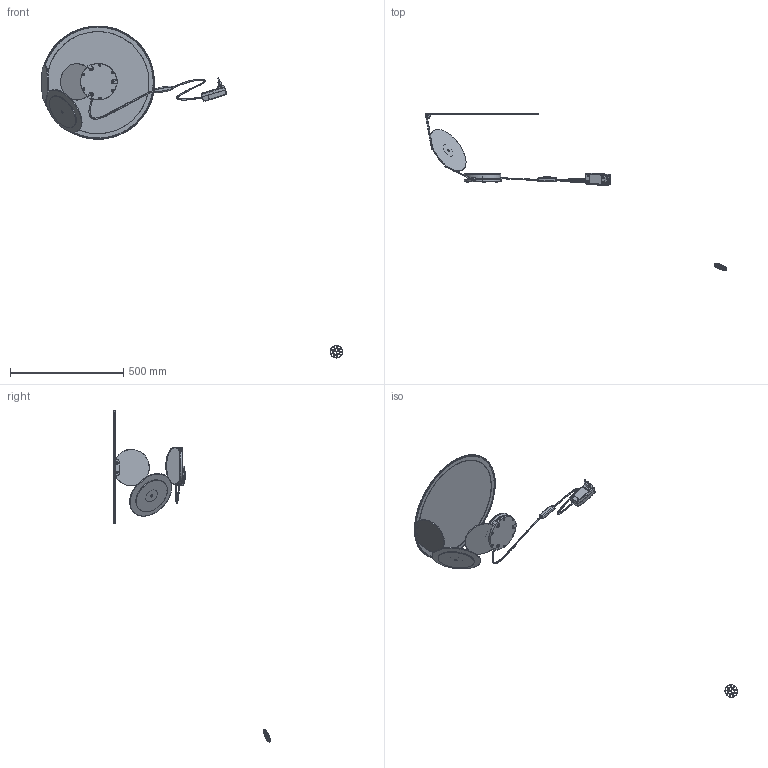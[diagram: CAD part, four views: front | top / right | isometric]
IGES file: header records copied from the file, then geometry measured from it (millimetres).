
Start section: SolidWorks IGES file using analytic representation for surfaces
Global section: file name: D:\OneDrive\Projects\AXO067 CUT II\DRAW\3D\STEP-IGES\CUT-TABLE_1.IGS; native system: SolidWorks 2019; preprocessor: SolidWorks 2019; author: tecnico8; date: 190725.162530; units: millimetre
Bounding box: 1328.08 x 689.22 x 1462.76 mm (x, y, z)
Surface area: 1026729.9 mm2 (no closed solid volume)
Topology: 0 solids, 0 shells, 842 faces, 13358 edges, 13334 vertices
Faces by surface type: revolution 490, bspline 352
